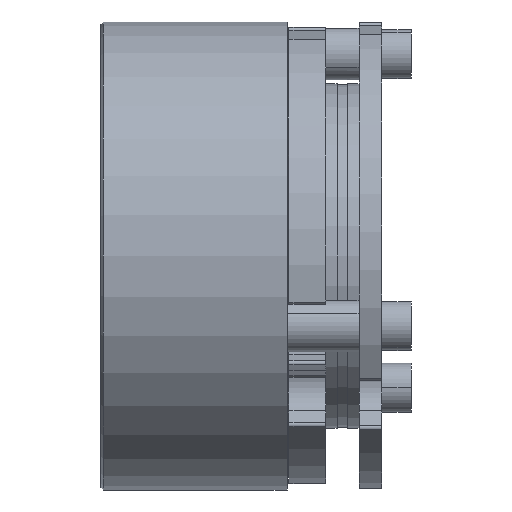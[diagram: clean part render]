
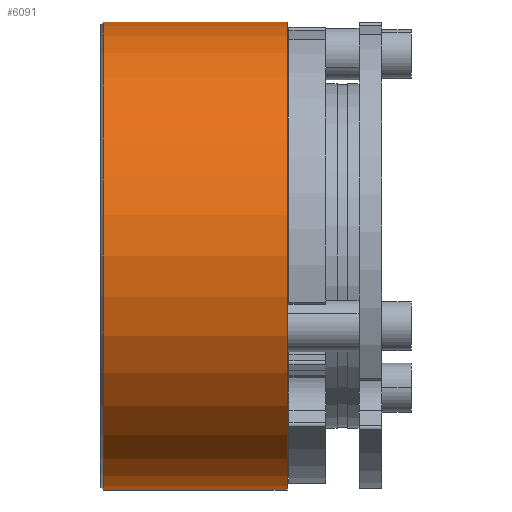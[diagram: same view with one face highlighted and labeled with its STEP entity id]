
A CAD part, front view. The second image highlights one B-rep face of the part: STEP entity #6091.
In plain terms, the highlighted cylindrical face has radius 22.212 mm (diameter 44.425 mm), a partial arc.
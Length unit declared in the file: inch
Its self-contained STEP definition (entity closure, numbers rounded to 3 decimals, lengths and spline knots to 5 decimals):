
#3529 = CIRCLE ( 'NONE', #45625, 0.8745 ) ;
#3539 = CARTESIAN_POINT ( 'NONE',  ( 0.01, 0., 0. ) ) ;
#3993 = VECTOR ( 'NONE', #4448, 39.37008 ) ;
#4401 = CARTESIAN_POINT ( 'NONE',  ( -0.08819, 0., 0. ) ) ;
#4448 = DIRECTION ( 'NONE',  ( -1., 0., 0. ) ) ;
#4631 = VERTEX_POINT ( 'NONE', #13338 ) ;
#6091 = ADVANCED_FACE ( 'NONE', ( #19605 ), #50668, .T. ) ;
#9845 = LINE ( 'NONE', #25375, #3993 ) ;
#13338 = CARTESIAN_POINT ( 'NONE',  ( 0.01, 0., -0.8745 ) ) ;
#13648 = CARTESIAN_POINT ( 'NONE',  ( 0.696, 0., -0.8745 ) ) ;
#17785 = CARTESIAN_POINT ( 'NONE',  ( -0.08819, 0., -0.8745 ) ) ;
#19014 = EDGE_CURVE ( 'NONE', #44546, #4631, #22513, .T. ) ;
#19605 = FACE_OUTER_BOUND ( 'NONE', #59138, .T. ) ;
#20576 = ORIENTED_EDGE ( 'NONE', *, *, #36956, .F. ) ;
#22180 = DIRECTION ( 'NONE',  ( -1., 0., 0. ) ) ;
#22513 = LINE ( 'NONE', #17785, #30265 ) ;
#23895 = EDGE_CURVE ( 'NONE', #44546, #43933, #51710, .T. ) ;
#25375 = CARTESIAN_POINT ( 'NONE',  ( -0.08819, 0., 0.8745 ) ) ;
#27173 = CARTESIAN_POINT ( 'NONE',  ( 0.696, 0., 0. ) ) ;
#29577 = ORIENTED_EDGE ( 'NONE', *, *, #19014, .F. ) ;
#30265 = VECTOR ( 'NONE', #22180, 39.37008 ) ;
#32372 = ORIENTED_EDGE ( 'NONE', *, *, #32566, .T. ) ;
#32566 = EDGE_CURVE ( 'NONE', #43933, #48499, #9845, .T. ) ;
#32615 = CARTESIAN_POINT ( 'NONE',  ( 0.696, 0., 0.8745 ) ) ;
#36956 = EDGE_CURVE ( 'NONE', #4631, #48499, #3529, .T. ) ;
#37305 = DIRECTION ( 'NONE',  ( -1., 0., 0. ) ) ;
#39216 = DIRECTION ( 'NONE',  ( -1., 0., 0. ) ) ;
#43933 = VERTEX_POINT ( 'NONE', #32615 ) ;
#44546 = VERTEX_POINT ( 'NONE', #13648 ) ;
#45416 = DIRECTION ( 'NONE',  ( -1., 0., 0. ) ) ;
#45625 = AXIS2_PLACEMENT_3D ( 'NONE', #3539, #45416, #65997 ) ;
#48011 = ORIENTED_EDGE ( 'NONE', *, *, #23895, .T. ) ;
#48493 = AXIS2_PLACEMENT_3D ( 'NONE', #27173, #37305, #57892 ) ;
#48499 = VERTEX_POINT ( 'NONE', #51585 ) ;
#50668 = CYLINDRICAL_SURFACE ( 'NONE', #58025, 0.8745 ) ;
#51585 = CARTESIAN_POINT ( 'NONE',  ( 0.01, 0., 0.8745 ) ) ;
#51710 = CIRCLE ( 'NONE', #48493, 0.8745 ) ;
#51975 = DIRECTION ( 'NONE',  ( 0., 0., 1. ) ) ;
#57892 = DIRECTION ( 'NONE',  ( 0., 0., 1. ) ) ;
#58025 = AXIS2_PLACEMENT_3D ( 'NONE', #4401, #39216, #51975 ) ;
#59138 = EDGE_LOOP ( 'NONE', ( #29577, #48011, #32372, #20576 ) ) ;
#65997 = DIRECTION ( 'NONE',  ( 0., 0., 1. ) ) ;
